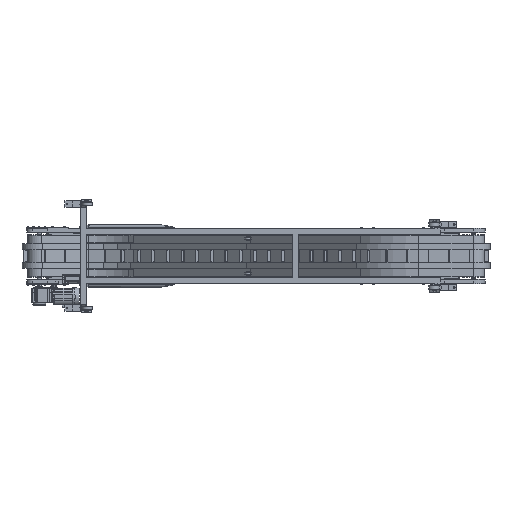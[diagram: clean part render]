
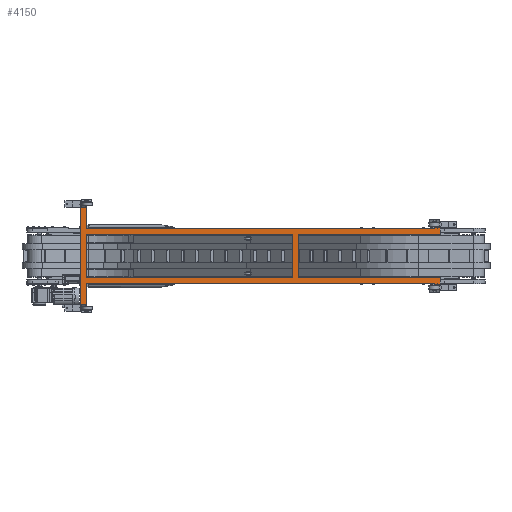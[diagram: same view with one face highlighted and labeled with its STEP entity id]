
A CAD part, front view. The second image highlights one B-rep face of the part: STEP entity #4150.
In plain terms, the highlighted planar face has unit normal (0, -1, 0).
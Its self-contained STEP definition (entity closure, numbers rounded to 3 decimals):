
#4150=ADVANCED_FACE('',(#28960,#28961),#28959,.F.);
#28959=PLANE('',#46052);
#28960=FACE_OUTER_BOUND('',#46053,.T.);
#28961=FACE_BOUND('',#46054,.T.);
#46049=CARTESIAN_POINT('',(3028.063,-2264.149,-410.));
#46050=DIRECTION('',(0.,1.,0.));
#46051=DIRECTION('',(-1.,0.,0.));
#46052=AXIS2_PLACEMENT_3D('',#46049,#46050,#46051);
#46053=EDGE_LOOP('',(#60456,#60457,#60458,#60459,#60460,#60461,#60462,#60463,#60464,#60465,#60466,#60467,#60468,#60469,#60470,#60471));
#46054=EDGE_LOOP('',(#60472,#60473,#60474,#60475));
#60456=ORIENTED_EDGE('',*,*,#68688,.T.);
#60457=ORIENTED_EDGE('',*,*,#68646,.T.);
#60458=ORIENTED_EDGE('',*,*,#68659,.F.);
#60459=ORIENTED_EDGE('',*,*,#68689,.F.);
#60460=ORIENTED_EDGE('',*,*,#68690,.F.);
#60461=ORIENTED_EDGE('',*,*,#68691,.T.);
#60462=ORIENTED_EDGE('',*,*,#68666,.T.);
#60463=ORIENTED_EDGE('',*,*,#68687,.F.);
#60464=ORIENTED_EDGE('',*,*,#68668,.F.);
#60465=ORIENTED_EDGE('',*,*,#68692,.T.);
#60466=ORIENTED_EDGE('',*,*,#68674,.T.);
#60467=ORIENTED_EDGE('',*,*,#68693,.F.);
#60468=ORIENTED_EDGE('',*,*,#68694,.F.);
#60469=ORIENTED_EDGE('',*,*,#68695,.F.);
#60470=ORIENTED_EDGE('',*,*,#68654,.T.);
#60471=ORIENTED_EDGE('',*,*,#68696,.F.);
#60472=ORIENTED_EDGE('',*,*,#68652,.F.);
#60473=ORIENTED_EDGE('',*,*,#68697,.T.);
#60474=ORIENTED_EDGE('',*,*,#68698,.F.);
#60475=ORIENTED_EDGE('',*,*,#68660,.F.);
#68646=EDGE_CURVE('',#110135,#110128,#110136,.T.);
#68652=EDGE_CURVE('',#110170,#110155,#110177,.T.);
#68654=EDGE_CURVE('',#110191,#110183,#110192,.T.);
#68659=EDGE_CURVE('',#110218,#110128,#110225,.T.);
#68660=EDGE_CURVE('',#110155,#110231,#110232,.T.);
#68666=EDGE_CURVE('',#110252,#110266,#110273,.T.);
#68668=EDGE_CURVE('',#110280,#110287,#110288,.T.);
#68674=EDGE_CURVE('',#110308,#110322,#110329,.T.);
#68687=EDGE_CURVE('',#110287,#110266,#110413,.T.);
#68688=EDGE_CURVE('',#110419,#110135,#110420,.T.);
#68689=EDGE_CURVE('',#110426,#110218,#110427,.T.);
#68690=EDGE_CURVE('',#110433,#110426,#110434,.T.);
#68691=EDGE_CURVE('',#110433,#110252,#110440,.T.);
#68692=EDGE_CURVE('',#110280,#110308,#110446,.T.);
#68693=EDGE_CURVE('',#110452,#110322,#110453,.T.);
#68694=EDGE_CURVE('',#110459,#110452,#110460,.T.);
#68695=EDGE_CURVE('',#110191,#110459,#110466,.T.);
#68696=EDGE_CURVE('',#110419,#110183,#110472,.T.);
#68697=EDGE_CURVE('',#110170,#110478,#110479,.T.);
#68698=EDGE_CURVE('',#110231,#110478,#110485,.T.);
#110128=VERTEX_POINT('',#140599);
#110135=VERTEX_POINT('',#140603);
#110136=LINE('',#140604,#140605);
#110155=VERTEX_POINT('',#140614);
#110170=VERTEX_POINT('',#140623);
#110177=LINE('',#140627,#140628);
#110183=VERTEX_POINT('',#140630);
#110191=VERTEX_POINT('',#140635);
#110192=LINE('',#140636,#140637);
#110218=VERTEX_POINT('',#140650);
#110225=LINE('',#140654,#140655);
#110231=VERTEX_POINT('',#140657);
#110232=LINE('',#140658,#140659);
#110252=VERTEX_POINT('',#140669);
#110266=VERTEX_POINT('',#140677);
#110273=LINE('',#140681,#140682);
#110280=VERTEX_POINT('',#140685);
#110287=VERTEX_POINT('',#140689);
#110288=LINE('',#140690,#140691);
#110308=VERTEX_POINT('',#140701);
#110322=VERTEX_POINT('',#140709);
#110329=LINE('',#140713,#140714);
#110413=LINE('',#140758,#140759);
#110419=VERTEX_POINT('',#140761);
#110420=LINE('',#140762,#140763);
#110426=VERTEX_POINT('',#140765);
#110427=LINE('',#140766,#140767);
#110433=VERTEX_POINT('',#140769);
#110434=LINE('',#140770,#140771);
#110440=LINE('',#140773,#140774);
#110446=LINE('',#140776,#140777);
#110452=VERTEX_POINT('',#140779);
#110453=LINE('',#140780,#140781);
#110459=VERTEX_POINT('',#140783);
#110460=LINE('',#140784,#140785);
#110466=LINE('',#140787,#140788);
#110472=LINE('',#140790,#140791);
#110478=VERTEX_POINT('',#140793);
#110479=LINE('',#140794,#140795);
#110485=LINE('',#140797,#140798);
#140599=CARTESIAN_POINT('',(1978.063,-2264.149,160.));
#140603=CARTESIAN_POINT('',(1978.063,-2264.149,-160.));
#140604=CARTESIAN_POINT('',(1978.063,-2264.149,-160.));
#140605=VECTOR('',#140606,320.);
#140606=DIRECTION('',(0.,0.,1.));
#140614=CARTESIAN_POINT('',(1938.063,-2264.149,160.));
#140623=CARTESIAN_POINT('',(1938.063,-2264.149,-160.));
#140627=CARTESIAN_POINT('',(1938.063,-2264.149,-160.));
#140628=VECTOR('',#140629,320.);
#140629=DIRECTION('',(0.,0.,1.));
#140630=CARTESIAN_POINT('',(3018.063,-2264.149,-250.));
#140635=CARTESIAN_POINT('',(2978.063,-2264.149,-250.));
#140636=CARTESIAN_POINT('',(2978.063,-2264.149,-250.));
#140637=VECTOR('',#140638,40.);
#140638=DIRECTION('',(1.,0.,0.));
#140650=CARTESIAN_POINT('',(3018.063,-2264.149,160.));
#140654=CARTESIAN_POINT('',(3018.063,-2264.149,160.));
#140655=VECTOR('',#140656,1040.);
#140656=DIRECTION('',(-1.,0.,0.));
#140657=CARTESIAN_POINT('',(428.063,-2264.149,160.));
#140658=CARTESIAN_POINT('',(1938.063,-2264.149,160.));
#140659=VECTOR('',#140660,1510.);
#140660=DIRECTION('',(-1.,0.,0.));
#140669=CARTESIAN_POINT('',(2978.063,-2264.149,200.));
#140677=CARTESIAN_POINT('',(428.063,-2264.149,200.));
#140681=CARTESIAN_POINT('',(2978.063,-2264.149,200.));
#140682=VECTOR('',#140683,2550.);
#140683=DIRECTION('',(-1.,0.,0.));
#140685=CARTESIAN_POINT('',(388.063,-2264.149,400.));
#140689=CARTESIAN_POINT('',(428.063,-2264.149,400.));
#140690=CARTESIAN_POINT('',(388.063,-2264.149,400.));
#140691=VECTOR('',#140692,40.);
#140692=DIRECTION('',(1.,0.,0.));
#140701=CARTESIAN_POINT('',(388.063,-2264.149,-400.));
#140709=CARTESIAN_POINT('',(428.063,-2264.149,-400.));
#140713=CARTESIAN_POINT('',(388.063,-2264.149,-400.));
#140714=VECTOR('',#140715,40.);
#140715=DIRECTION('',(1.,0.,0.));
#140758=CARTESIAN_POINT('',(428.063,-2264.149,400.));
#140759=VECTOR('',#140760,200.);
#140760=DIRECTION('',(0.,0.,-1.));
#140761=CARTESIAN_POINT('',(3018.063,-2264.149,-160.));
#140762=CARTESIAN_POINT('',(3018.063,-2264.149,-160.));
#140763=VECTOR('',#140764,1040.);
#140764=DIRECTION('',(-1.,0.,0.));
#140765=CARTESIAN_POINT('',(3018.063,-2264.149,250.));
#140766=CARTESIAN_POINT('',(3018.063,-2264.149,250.));
#140767=VECTOR('',#140768,90.);
#140768=DIRECTION('',(0.,0.,-1.));
#140769=CARTESIAN_POINT('',(2978.063,-2264.149,250.));
#140770=CARTESIAN_POINT('',(2978.063,-2264.149,250.));
#140771=VECTOR('',#140772,40.);
#140772=DIRECTION('',(1.,0.,0.));
#140773=CARTESIAN_POINT('',(2978.063,-2264.149,250.));
#140774=VECTOR('',#140775,50.);
#140775=DIRECTION('',(0.,0.,-1.));
#140776=CARTESIAN_POINT('',(388.063,-2264.149,400.));
#140777=VECTOR('',#140778,800.);
#140778=DIRECTION('',(0.,0.,-1.));
#140779=CARTESIAN_POINT('',(428.063,-2264.149,-200.));
#140780=CARTESIAN_POINT('',(428.063,-2264.149,-200.));
#140781=VECTOR('',#140782,200.);
#140782=DIRECTION('',(0.,0.,-1.));
#140783=CARTESIAN_POINT('',(2978.063,-2264.149,-200.));
#140784=CARTESIAN_POINT('',(2978.063,-2264.149,-200.));
#140785=VECTOR('',#140786,2550.);
#140786=DIRECTION('',(-1.,0.,0.));
#140787=CARTESIAN_POINT('',(2978.063,-2264.149,-250.));
#140788=VECTOR('',#140789,50.);
#140789=DIRECTION('',(0.,0.,1.));
#140790=CARTESIAN_POINT('',(3018.063,-2264.149,-160.));
#140791=VECTOR('',#140792,90.);
#140792=DIRECTION('',(0.,0.,-1.));
#140793=CARTESIAN_POINT('',(428.063,-2264.149,-160.));
#140794=CARTESIAN_POINT('',(1938.063,-2264.149,-160.));
#140795=VECTOR('',#140796,1510.);
#140796=DIRECTION('',(-1.,0.,0.));
#140797=CARTESIAN_POINT('',(428.063,-2264.149,160.));
#140798=VECTOR('',#140799,320.);
#140799=DIRECTION('',(0.,0.,-1.));
